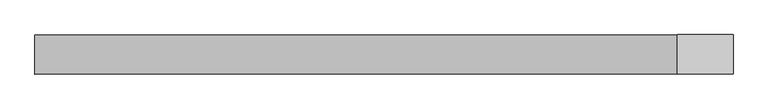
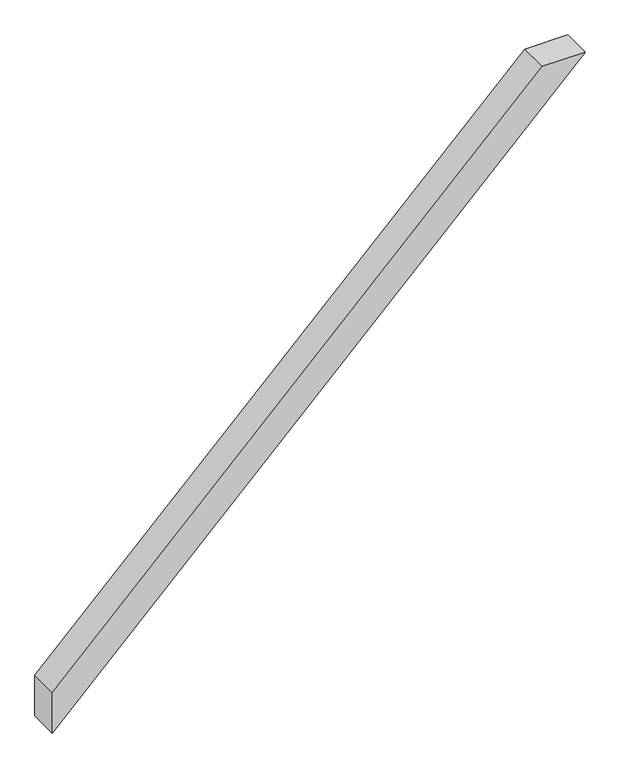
"""IFC4 building model written with IfcOpenShell, lengths in millimetres: proxy geometry, Modelos genéricos 100 : Modelos genéricos 23."""

from ifc_helpers import new_model, si_unit, frame, origin, place, context, project, spatial, polyline, outline, extrude, source, transform, mapped, element, save


def generic_models_50ffef5a(model_context):
    return source(origin(), model_context, "Body", "SweptSolid", [
        extrude(outline(polyline([(4220.0, 3043.2371907), (4220.0, 2958.384377), (3244.8528137, 1983.2371907), (3160.0, 1983.2371907), (4220.0, 3043.2371907)])), frame((0.0, 1918.6238165, 0.0), z_axis=(0.0, 1.0, 0.0), x_axis=(0.0, 0.0, 1.0)), (0.0, 0.0, 1.0), 60.0),
    ])


if __name__ == "__main__":
    model = new_model("IFC4")
    model_context = context("Model", 3, world=origin())
    ifc_project = project(units=[si_unit("LENGTHUNIT", "METRE", prefix="MILLI")], contexts=[model_context])
    site = spatial("IfcSite", under=ifc_project)
    building = spatial("IfcBuilding", under=site)
    placement = place(None, origin())
    generic_models_shape = generic_models_50ffef5a(model_context)
    element("IfcBuildingElementProxy", 1, Name="Modelos genéricos 100 : Modelos genéricos 23", ObjectType="Modelos genéricos 100 : Modelos genéricos 23", at=placement, inside=building, context=model_context, shape_type="MappedRepresentation", body=[
        mapped(generic_models_shape, transform((0.0, 0.0, 0.0), x_axis=(1.0, 0.0, 0.0), y_axis=(0.0, 1.0, 0.0), z_axis=(0.0, 0.0, 1.0))),
    ])
    save(model, "model.ifc")
